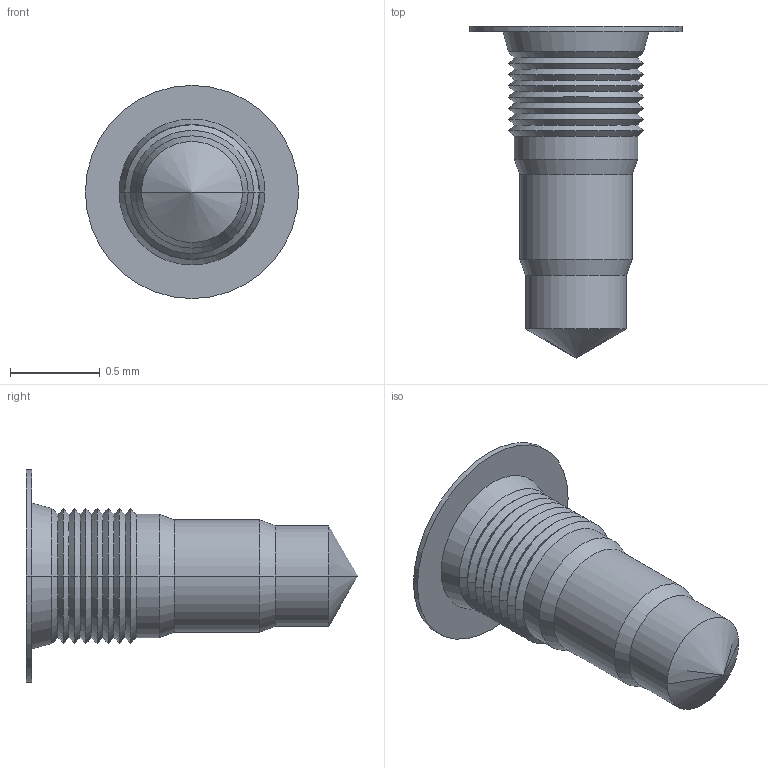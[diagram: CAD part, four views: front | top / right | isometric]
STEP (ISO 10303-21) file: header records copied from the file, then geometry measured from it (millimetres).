
FILE_DESCRIPTION((''),'2;1');
FILE_NAME('0024-3D.stp','2011-04-18T11:06:21',(''),(''),'Mechanical Desktop 2009','Mechanical Desktop 2009',', , ');
FILE_SCHEMA(('CONFIG_CONTROL_DESIGN'));
Length unit declared in the file: millimetre
Products named in the file (1): Product
Bounding box: 1.19 x 1.85 x 1.19 mm (x, y, z)
Volume: 0.6 mm3; surface area: 6 mm2
Topology: 1 solids, 1 shells, 48 faces, 96 edges, 49 vertices
Faces by surface type: cone 38, cylinder 8, plane 2
Entity records: 1293 total; most frequent: DIRECTION 240, CARTESIAN_POINT 192, ORIENTED_EDGE 188, AXIS2_PLACEMENT_3D 97, EDGE_CURVE 94, VERTEX_POINT 49, EDGE_LOOP 49, CIRCLE 48
